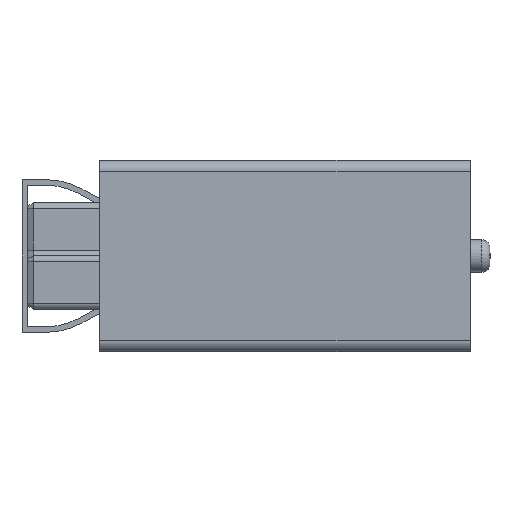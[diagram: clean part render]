
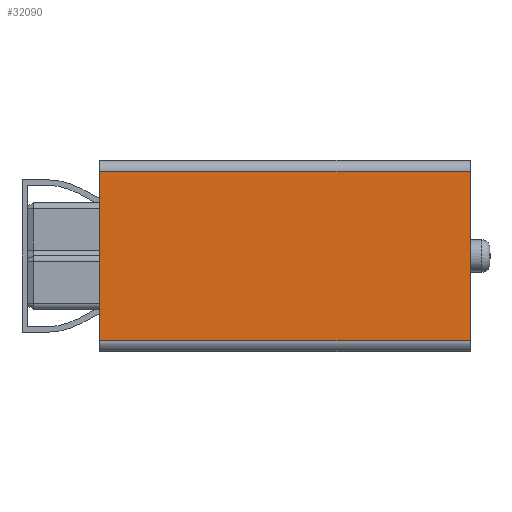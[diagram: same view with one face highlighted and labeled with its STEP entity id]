
A CAD part, left-side view. The second image highlights one B-rep face of the part: STEP entity #32090.
In plain terms, the highlighted planar face has unit normal (-1, 0, 0).
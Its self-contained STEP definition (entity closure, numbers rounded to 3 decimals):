
#456 = VERTEX_POINT ( 'NONE', #45328 ) ;
#853 = ORIENTED_EDGE ( 'NONE', *, *, #86044, .F. ) ;
#1477 = PLANE ( 'NONE',  #63343 ) ;
#1630 = DIRECTION ( 'NONE',  ( 0., 0., -1. ) ) ;
#8392 = VERTEX_POINT ( 'NONE', #29689 ) ;
#9238 = VECTOR ( 'NONE', #65112, 1000. ) ;
#9317 = EDGE_CURVE ( 'NONE', #8392, #456, #13801, .T. ) ;
#13801 = LINE ( 'NONE', #36542, #50862 ) ;
#14067 = ORIENTED_EDGE ( 'NONE', *, *, #18504, .F. ) ;
#15241 = DIRECTION ( 'NONE',  ( 0., -1., 0. ) ) ;
#18504 = EDGE_CURVE ( 'NONE', #456, #30674, #54275, .T. ) ;
#21254 = EDGE_CURVE ( 'NONE', #8392, #42593, #52590, .T. ) ;
#23807 = DIRECTION ( 'NONE',  ( 1., 0., 0. ) ) ;
#25125 = EDGE_LOOP ( 'NONE', ( #54203, #65483, #853, #14067 ) ) ;
#29689 = CARTESIAN_POINT ( 'NONE',  ( -14.065, 4.065, 3. ) ) ;
#30674 = VERTEX_POINT ( 'NONE', #69062 ) ;
#32090 = ADVANCED_FACE ( 'NONE', ( #75247 ), #1477, .F. ) ;
#35511 = LINE ( 'NONE', #95194, #9238 ) ;
#36542 = CARTESIAN_POINT ( 'NONE',  ( -14.065, -1.085, 3. ) ) ;
#42593 = VERTEX_POINT ( 'NONE', #81263 ) ;
#45328 = CARTESIAN_POINT ( 'NONE',  ( -14.065, -9.085, 3. ) ) ;
#47076 = DIRECTION ( 'NONE',  ( 0., 0., -1. ) ) ;
#50862 = VECTOR ( 'NONE', #15241, 1000. ) ;
#52590 = LINE ( 'NONE', #67129, #78299 ) ;
#54203 = ORIENTED_EDGE ( 'NONE', *, *, #9317, .F. ) ;
#54275 = LINE ( 'NONE', #91609, #82413 ) ;
#54737 = DIRECTION ( 'NONE',  ( 0., 0., -1. ) ) ;
#60656 = CARTESIAN_POINT ( 'NONE',  ( -14.065, 6.615, 3. ) ) ;
#63343 = AXIS2_PLACEMENT_3D ( 'NONE', #60656, #23807, #47076 ) ;
#65112 = DIRECTION ( 'NONE',  ( 0., 1., 0. ) ) ;
#65483 = ORIENTED_EDGE ( 'NONE', *, *, #21254, .T. ) ;
#67129 = CARTESIAN_POINT ( 'NONE',  ( -14.065, 4.065, -3. ) ) ;
#69062 = CARTESIAN_POINT ( 'NONE',  ( -14.065, -9.085, -3. ) ) ;
#75247 = FACE_OUTER_BOUND ( 'NONE', #25125, .T. ) ;
#78299 = VECTOR ( 'NONE', #1630, 1000. ) ;
#81263 = CARTESIAN_POINT ( 'NONE',  ( -14.065, 4.065, -3. ) ) ;
#82413 = VECTOR ( 'NONE', #54737, 1000. ) ;
#86044 = EDGE_CURVE ( 'NONE', #30674, #42593, #35511, .T. ) ;
#91609 = CARTESIAN_POINT ( 'NONE',  ( -14.065, -9.085, 3. ) ) ;
#95194 = CARTESIAN_POINT ( 'NONE',  ( -14.065, 4.065, -3. ) ) ;
